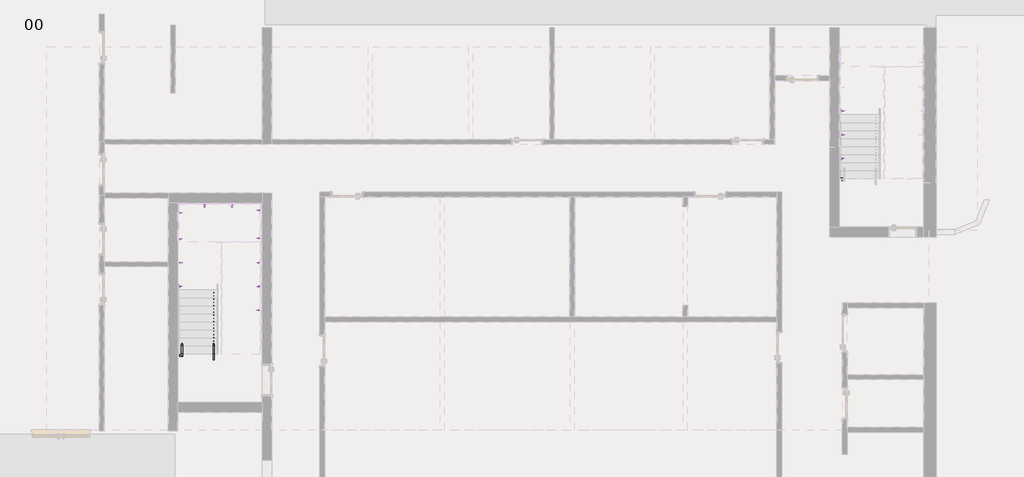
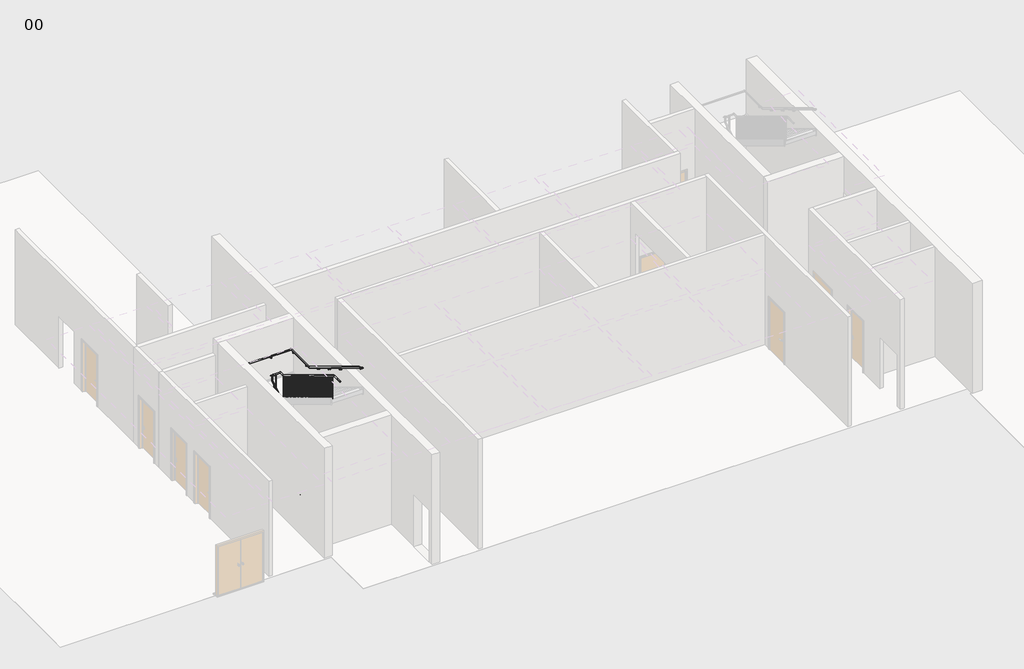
# One storey, part 9 of 11: 15 proxies, 2 railings.
"""IFC4 building model written with IfcOpenShell, lengths in millimetres."""

from ifc_helpers import new_model, si_unit, frame, origin, place, context, project, spatial, polyline, circle_curve, ellipse_curve, outline, extrude, transform, mapped, element, save
from ifc_brep_helpers import plane_surface, cylinder_surface, advanced_brep
from components import support_circular_support_bend_943144f1

model = new_model("IFC4")

# Units and contexts
model_context = context("Model", 3, world=origin())
ifc_project = project(units=[si_unit("LENGTHUNIT", "METRE", prefix="MILLI")], contexts=[model_context])

# Site, building, storey
site = spatial("IfcSite", under=ifc_project)
building = spatial("IfcBuilding", under=site)
storey = spatial("IfcBuildingStorey", under=building, Name="00", Elevation=0.0)

# Proxies
placement = place(None, origin())
support_circular_support_bend_shape = support_circular_support_bend_943144f1(model_context)
element("IfcBuildingElementProxy", 1, Name="Support_ Circular : Support_Bend", ObjectType="Support_ Circular : Support_Bend", at=placement, inside=storey, context=model_context, shape_type="MappedRepresentation", body=[
    mapped(support_circular_support_bend_shape, transform((422506.7206883, -389662.2924977, 2277.0260845), x_axis=(0.0, 1.0, 0.0), y_axis=(-1.0, 0.0, 0.0), z_axis=(0.0, 0.0, 1.0))),
])
element("IfcBuildingElementProxy", 2, Name="Support_ Circular : Support_Bend", ObjectType="Support_ Circular : Support_Bend", at=placement, inside=storey, context=model_context, shape_type="MappedRepresentation", body=[
    mapped(support_circular_support_bend_shape, transform((422506.7206883, -388918.3727809, 2723.3779147), x_axis=(0.0, 1.0, 0.0), y_axis=(-1.0, 0.0, 0.0), z_axis=(0.0, 0.0, 1.0))),
])
element("IfcBuildingElementProxy", 3, Name="Support_ Circular : Support_Bend", ObjectType="Support_ Circular : Support_Bend", at=placement, inside=storey, context=model_context, shape_type="MappedRepresentation", body=[
    mapped(support_circular_support_bend_shape, transform((422506.7206883, -388174.453064, 3169.7297448), x_axis=(0.0, 1.0, 0.0), y_axis=(-1.0, 0.0, 0.0), z_axis=(0.0, 0.0, 1.0))),
])
element("IfcBuildingElementProxy", 4, Name="Support_ Circular : Support_Bend", ObjectType="Support_ Circular : Support_Bend", at=placement, inside=storey, context=model_context, shape_type="MappedRepresentation", body=[
    mapped(support_circular_support_bend_shape, transform((422506.7206883, -387345.753659, 3310.0), x_axis=(0.0, 1.0, 0.0), y_axis=(-1.0, 0.0, 0.0), z_axis=(0.0, 0.0, 1.0))),
])
element("IfcBuildingElementProxy", 5, Name="Support_ Circular : Support_Bend", ObjectType="Support_ Circular : Support_Bend", at=placement, inside=storey, context=model_context, shape_type="MappedRepresentation", body=[
    mapped(support_circular_support_bend_shape, transform((423207.9216845, -387179.4026386, 3310.0), x_axis=(1.0, 0.0, 0.0), y_axis=(0.0, 1.0, 0.0), z_axis=(0.0, 0.0, 1.0))),
])
element("IfcBuildingElementProxy", 6, Name="Support_ Circular : Support_Bend", ObjectType="Support_ Circular : Support_Bend", at=placement, inside=storey, context=model_context, shape_type="MappedRepresentation", body=[
    mapped(support_circular_support_bend_shape, transform((424075.473701, -387179.4026386, 3310.0), x_axis=(1.0, 0.0, 0.0), y_axis=(0.0, 1.0, 0.0), z_axis=(0.0, 0.0, 1.0))),
])
element("IfcBuildingElementProxy", 7, Name="Support_ Circular : Support_Bend", ObjectType="Support_ Circular : Support_Bend", at=placement, inside=storey, context=model_context, shape_type="MappedRepresentation", body=[
    mapped(support_circular_support_bend_shape, transform((424845.9206883, -387276.5076677, 3310.0), x_axis=(0.0, -1.0, 0.0), y_axis=(1.0, 0.0, 0.0), z_axis=(0.0, 0.0, 1.0))),
])
element("IfcBuildingElementProxy", 8, Name="Support_ Circular : Support_Bend", ObjectType="Support_ Circular : Support_Bend", at=placement, inside=storey, context=model_context, shape_type="MappedRepresentation", body=[
    mapped(support_circular_support_bend_shape, transform((424845.9206883, -388144.0596842, 3310.0), x_axis=(0.0, -1.0, 0.0), y_axis=(1.0, 0.0, 0.0), z_axis=(0.0, 0.0, 1.0))),
])
element("IfcBuildingElementProxy", 9, Name="Support_ Circular : Support_Bend", ObjectType="Support_ Circular : Support_Bend", at=placement, inside=storey, context=model_context, shape_type="MappedRepresentation", body=[
    mapped(support_circular_support_bend_shape, transform((424845.9206883, -388918.3727809, 3646.6220853), x_axis=(0.0, -1.0, 0.0), y_axis=(1.0, 0.0, 0.0), z_axis=(0.0, 0.0, 1.0))),
])
element("IfcBuildingElementProxy", 10, Name="Support_ Circular : Support_Bend", ObjectType="Support_ Circular : Support_Bend", at=placement, inside=storey, context=model_context, shape_type="MappedRepresentation", body=[
    mapped(support_circular_support_bend_shape, transform((424845.9206883, -389662.2924977, 4092.9739155), x_axis=(0.0, -1.0, 0.0), y_axis=(1.0, 0.0, 0.0), z_axis=(0.0, 0.0, 1.0))),
])
element("IfcBuildingElementProxy", 11, Name="Support_ Circular : Support_Bend", ObjectType="Support_ Circular : Support_Bend", at=placement, inside=storey, context=model_context, shape_type="MappedRepresentation", body=[
    mapped(support_circular_support_bend_shape, transform((424845.9206883, -390406.2122145, 4539.3257456), x_axis=(0.0, -1.0, 0.0), y_axis=(1.0, 0.0, 0.0), z_axis=(0.0, 0.0, 1.0))),
])
element("IfcBuildingElementProxy", 12, Name="Support_ Circular : Support_Bend", ObjectType="Support_ Circular : Support_Bend", at=placement, inside=storey, context=model_context, shape_type="MappedRepresentation", body=[
    mapped(support_circular_support_bend_shape, transform((443172.7206883, -386335.0026386, 1050.0), x_axis=(1.0, 0.0, 0.0), y_axis=(0.0, 1.0, 0.0), z_axis=(0.0, 0.0, 1.0))),
])
element("IfcBuildingElementProxy", 13, Name="Support_ Circular : Support_Bend", ObjectType="Support_ Circular : Support_Bend", at=placement, inside=storey, context=model_context, shape_type="MappedRepresentation", body=[
    mapped(support_circular_support_bend_shape, transform((443252.7206883, -385650.2172722, 1384.8712198), x_axis=(0.0, 1.0, 0.0), y_axis=(-1.0, 0.0, 0.0), z_axis=(0.0, 0.0, 1.0))),
])
element("IfcBuildingElementProxy", 14, Name="Support_ Circular : Support_Bend", ObjectType="Support_ Circular : Support_Bend", at=placement, inside=storey, context=model_context, shape_type="MappedRepresentation", body=[
    mapped(support_circular_support_bend_shape, transform((443252.7206883, -384905.3828963, 1831.7718454), x_axis=(0.0, 1.0, 0.0), y_axis=(-1.0, 0.0, 0.0), z_axis=(0.0, 0.0, 1.0))),
])
element("IfcBuildingElementProxy", 15, Name="Support_ Circular : Support_Bend", ObjectType="Support_ Circular : Support_Bend", at=placement, inside=storey, context=model_context, shape_type="MappedRepresentation", body=[
    mapped(support_circular_support_bend_shape, transform((443252.7206883, -384160.5485203, 2278.672471), x_axis=(0.0, 1.0, 0.0), y_axis=(-1.0, 0.0, 0.0), z_axis=(0.0, 0.0, 1.0))),
])

# Railings
element("IfcRailing", 16, ObjectType="Concept_900-1100mm_RailStop_Baluster", at=placement, inside=storey, context=model_context, shape_type="SolidModel", body=[
    advanced_brep(
    [(423515.9206883, -391969.0026386, 1030.0), (423475.9206883, -391969.0026386, 1030.0), (423515.9206883, -391768.4629593, 1030.0), (423475.9206883, -391768.4629593, 1030.0), (423515.9206883, -388228.6026386, 3153.9161924), (423475.9206883, -388228.6026386, 3153.9161924), (423515.9206883, -388228.6026386, 3330.0), (423475.9206883, -388228.6026386, 3330.0), (423515.9206883, -388188.6026386, 3330.0), (423475.9206883, -388148.6026386, 3330.0), (423575.9206883, -388188.6026386, 3330.0), (423575.9206883, -388148.6026386, 3330.0), (423836.7206883, -388188.6026386, 3330.0), (423876.7206883, -388148.6026386, 3330.0), (423836.7206883, -388362.8756512, 3330.0), (423876.7206883, -388362.8756512, 3330.0), (423836.7206883, -391779.5423179, 5380.0), (423876.7206883, -391779.5423179, 5380.0), (423836.7206883, -392169.0026386, 5380.0), (423876.7206883, -392169.0026386, 5380.0)],
    [
        (0, 1, circle_curve(frame((423495.9206883, -391969.0026386, 1030.0), z_axis=(0.0, -1.0, 0.0), x_axis=(-1.0, 0.0, 0.0)), 20.0)),
        (1, 0, circle_curve(frame((423495.9206883, -391969.0026386, 1030.0), z_axis=(0.0, -1.0, 0.0), x_axis=(-1.0, 0.0, 0.0)), 20.0)),
        (0, 2),
        (2, 3, ellipse_curve(frame((423495.9206883, -391768.4629593, 1030.0), z_axis=(0.0, -0.9637149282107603, -0.26693358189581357), x_axis=(0.0, -0.26693358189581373, 0.9637149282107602)), 20.753025, 20.0)),
        (3, 1),
        (3, 2, ellipse_curve(frame((423495.9206883, -391768.4629593, 1030.0), z_axis=(0.0, -0.9637149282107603, -0.26693358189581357), x_axis=(0.0, -0.26693358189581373, 0.9637149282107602)), 20.753025, 20.0)),
        (2, 4),
        (4, 5, ellipse_curve(frame((423495.9206883, -388228.6026386, 3153.9161924), z_axis=(0.0, -0.49269881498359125, -0.8701999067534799), x_axis=(0.0, -0.8701999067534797, 0.4926988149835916)), 22.9832247, 20.0)),
        (5, 3),
        (5, 4, ellipse_curve(frame((423495.9206883, -388228.6026386, 3153.9161924), z_axis=(0.0, -0.49269881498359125, -0.8701999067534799), x_axis=(0.0, -0.8701999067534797, 0.4926988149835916)), 22.9832247, 20.0)),
        (4, 6),
        (6, 7, ellipse_curve(frame((423495.9206883, -388228.6026386, 3330.0), z_axis=(0.0, -0.7071067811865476, -0.7071067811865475), x_axis=(0.0, 0.7071067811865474, -0.7071067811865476)), 28.2842712, 20.0)),
        (7, 5),
        (7, 6, ellipse_curve(frame((423495.9206883, -388228.6026386, 3330.0), z_axis=(0.0, -0.7071067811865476, -0.7071067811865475), x_axis=(0.0, 0.7071067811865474, -0.7071067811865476)), 28.2842712, 20.0)),
        (6, 8),
        (8, 9, ellipse_curve(frame((423495.9206883, -388168.6026386, 3330.0), z_axis=(-0.7071067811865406, -0.7071067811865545, 0.0), x_axis=(0.7071067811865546, -0.7071067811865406, 0.0)), 28.2842712, 20.0)),
        (9, 7),
        (9, 8, ellipse_curve(frame((423495.9206883, -388168.6026386, 3330.0), z_axis=(-0.7071067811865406, -0.7071067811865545, 0.0), x_axis=(0.7071067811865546, -0.7071067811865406, 0.0)), 28.2842712, 20.0)),
        (8, 10),
        (10, 11, circle_curve(frame((423575.9206883, -388168.6026386, 3330.0), z_axis=(-1.0, 0.0, 0.0), x_axis=(0.0, 1.0, 0.0)), 20.0)),
        (11, 9),
        (11, 10, circle_curve(frame((423575.9206883, -388168.6026386, 3330.0), z_axis=(-1.0, 0.0, 0.0), x_axis=(0.0, 1.0, 0.0)), 20.0)),
        (10, 12),
        (12, 13, ellipse_curve(frame((423856.7206883, -388168.6026386, 3330.0), z_axis=(-0.7071067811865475, 0.7071067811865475, 0.0), x_axis=(-0.7071067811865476, -0.7071067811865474, 0.0)), 28.2842712, 20.0)),
        (13, 11),
        (13, 12, ellipse_curve(frame((423856.7206883, -388168.6026386, 3330.0), z_axis=(-0.7071067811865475, 0.7071067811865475, 0.0), x_axis=(-0.7071067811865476, -0.7071067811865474, 0.0)), 28.2842712, 20.0)),
        (12, 14),
        (14, 15, ellipse_curve(frame((423856.7206883, -388362.8756512, 3330.0), z_axis=(0.0, 0.9637149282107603, -0.2669335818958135), x_axis=(0.0, 0.26693358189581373, 0.9637149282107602)), 20.753025, 20.0)),
        (15, 13),
        (15, 14, ellipse_curve(frame((423856.7206883, -388362.8756512, 3330.0), z_axis=(0.0, 0.9637149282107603, -0.2669335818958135), x_axis=(0.0, 0.26693358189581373, 0.9637149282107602)), 20.753025, 20.0)),
        (14, 16),
        (16, 17, ellipse_curve(frame((423856.7206883, -391779.5423179, 5380.0), z_axis=(0.0, 0.9637149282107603, -0.2669335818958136), x_axis=(0.0, -0.26693358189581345, -0.9637149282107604)), 20.753025, 20.0)),
        (17, 15),
        (17, 16, ellipse_curve(frame((423856.7206883, -391779.5423179, 5380.0), z_axis=(0.0, 0.9637149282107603, -0.2669335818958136), x_axis=(0.0, -0.26693358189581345, -0.9637149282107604)), 20.753025, 20.0)),
        (18, 19, circle_curve(frame((423856.7206883, -392169.0026386, 5380.0), z_axis=(0.0, -1.0, 0.0), x_axis=(1.0, 0.0, 0.0)), 20.0)),
        (19, 18, circle_curve(frame((423856.7206883, -392169.0026386, 5380.0), z_axis=(0.0, -1.0, 0.0), x_axis=(1.0, 0.0, 0.0)), 20.0)),
        (16, 18),
        (19, 17),
    ],
    [
        plane_surface(frame((423495.9206883, -391969.0026386, 1050.0), z_axis=(0.0, -1.0, 0.0), x_axis=(0.0, 0.0, 1.0))),
        cylinder_surface(frame((423495.9206883, -391969.0026386, 1030.0), z_axis=(0.0, -1.0, 0.0), x_axis=(-1.0, 0.0, 0.0)), 20.0),
        cylinder_surface(frame((423495.9206883, -391763.7127235, 1032.8501415), z_axis=(0.0, -0.857492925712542, -0.5144957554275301), x_axis=(-1.0, 0.0, 0.0)), 20.0),
        cylinder_surface(frame((423495.9206883, -388228.6026386, 3165.24), z_axis=(0.0, 0.0, -1.0), x_axis=(-1.0, 0.0, 0.0)), 20.0),
        cylinder_surface(frame((423495.9206883, -388248.6026386, 3330.0), z_axis=(0.0, -1.0, 0.0), x_axis=(-1.0, 0.0, 0.0)), 20.0),
        cylinder_surface(frame((423495.9206883, -388168.6026386, 3330.0), z_axis=(-1.0, 0.0, 0.0), x_axis=(0.0, 1.0, 0.0)), 20.0),
        cylinder_surface(frame((423575.9206883, -388168.6026386, 3330.0), z_axis=(-1.0, 0.0, 0.0), x_axis=(0.0, 1.0, 0.0)), 20.0),
        cylinder_surface(frame((423856.7206883, -388168.6026386, 3330.0), z_axis=(0.0, 1.0, 0.0), x_axis=(1.0, 0.0, 0.0)), 20.0),
        cylinder_surface(frame((423856.7206883, -388367.6258871, 3332.8501415), z_axis=(0.0, 0.857492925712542, -0.5144957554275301), x_axis=(1.0, 0.0, 0.0)), 20.0),
        plane_surface(frame((423856.7206883, -392169.0026386, 5400.0), z_axis=(0.0, -1.0, 0.0), x_axis=(0.0, 0.0, -1.0))),
        cylinder_surface(frame((423856.7206883, -391774.0026386, 5380.0), z_axis=(0.0, 1.0, 0.0), x_axis=(1.0, 0.0, 0.0)), 20.0),
    ],
    [
        (0, [[1, 2]]),
        (1, [[-1, 3, 4, 5]]),
        (1, [[-2, -5, 6, -3]]),
        (2, [[-4, 7, 8, 9]]),
        (2, [[-6, -9, 10, -7]]),
        (3, [[-8, 11, 12, 13]]),
        (3, [[-10, -13, 14, -11]]),
        (4, [[-12, 15, 16, 17]]),
        (4, [[-14, -17, 18, -15]]),
        (5, [[-16, 19, 20, 21]]),
        (5, [[-18, -21, 22, -19]]),
        (6, [[-20, 23, 24, 25]]),
        (6, [[-22, -25, 26, -23]]),
        (7, [[-24, 27, 28, 29]]),
        (7, [[-26, -29, 30, -27]]),
        (8, [[-28, 31, 32, 33]]),
        (8, [[-30, -33, 34, -31]]),
        (9, [[35, 36]]),
        (10, [[-32, 37, -36, 38]]),
        (10, [[-34, -38, -35, -37]]),
    ],
),
    extrude(outline(polyline([(-391668.2769243, 5289.9169563), (-391668.2769243, 4350.0), (-391678.2769243, 4350.0), (-391678.2769243, 5295.9169563), (-391668.2769243, 5289.9169563)])), frame((423851.7206883, 0.0, 0.0), z_axis=(1.0, 0.0, 0.0), x_axis=(0.0, 1.0, 0.0)), (0.0, 0.0, 1.0), 10.0),
    extrude(outline(polyline([(-391567.55121, 5229.4815277), (-391567.55121, 4350.0), (-391577.55121, 4350.0), (-391577.55121, 5235.4815277), (-391567.55121, 5229.4815277)])), frame((423851.7206883, 0.0, 0.0), z_axis=(1.0, 0.0, 0.0), x_axis=(0.0, 1.0, 0.0)), (0.0, 0.0, 1.0), 10.0),
    extrude(outline(polyline([(-391466.8254958, 5169.0460991), (-391466.8254958, 4200.0), (-391476.8254958, 4200.0), (-391476.8254958, 5175.0460991), (-391466.8254958, 5169.0460991)])), frame((423851.7206883, 0.0, 0.0), z_axis=(1.0, 0.0, 0.0), x_axis=(0.0, 1.0, 0.0)), (0.0, 0.0, 1.0), 10.0),
    extrude(outline(polyline([(-391366.0997815, 5108.6106706), (-391366.0997815, 4200.0), (-391376.0997815, 4200.0), (-391376.0997815, 5114.6106706), (-391366.0997815, 5108.6106706)])), frame((423851.7206883, 0.0, 0.0), z_axis=(1.0, 0.0, 0.0), x_axis=(0.0, 1.0, 0.0)), (0.0, 0.0, 1.0), 10.0),
    extrude(outline(polyline([(-391265.3740672, 5048.175242), (-391265.3740672, 4050.0), (-391275.3740672, 4050.0), (-391275.3740672, 5054.175242), (-391265.3740672, 5048.175242)])), frame((423851.7206883, 0.0, 0.0), z_axis=(1.0, 0.0, 0.0), x_axis=(0.0, 1.0, 0.0)), (0.0, 0.0, 1.0), 10.0),
    extrude(outline(polyline([(-391164.6483529, 4987.7398134), (-391164.6483529, 4050.0), (-391174.6483529, 4050.0), (-391174.6483529, 4993.7398134), (-391164.6483529, 4987.7398134)])), frame((423851.7206883, 0.0, 0.0), z_axis=(1.0, 0.0, 0.0), x_axis=(0.0, 1.0, 0.0)), (0.0, 0.0, 1.0), 10.0),
    extrude(outline(polyline([(-391063.9226386, 4927.3043848), (-391063.9226386, 4050.0), (-391073.9226386, 4050.0), (-391073.9226386, 4933.3043848), (-391063.9226386, 4927.3043848)])), frame((423851.7206883, 0.0, 0.0), z_axis=(1.0, 0.0, 0.0), x_axis=(0.0, 1.0, 0.0)), (0.0, 0.0, 1.0), 10.0),
    extrude(outline(polyline([(-390963.1969243, 4866.8689563), (-390963.1969243, 3900.0), (-390973.1969243, 3900.0), (-390973.1969243, 4872.8689563), (-390963.1969243, 4866.8689563)])), frame((423851.7206883, 0.0, 0.0), z_axis=(1.0, 0.0, 0.0), x_axis=(0.0, 1.0, 0.0)), (0.0, 0.0, 1.0), 10.0),
    extrude(outline(polyline([(-390862.47121, 4806.4335277), (-390862.47121, 3900.0), (-390872.47121, 3900.0), (-390872.47121, 4812.4335277), (-390862.47121, 4806.4335277)])), frame((423851.7206883, 0.0, 0.0), z_axis=(1.0, 0.0, 0.0), x_axis=(0.0, 1.0, 0.0)), (0.0, 0.0, 1.0), 10.0),
    extrude(outline(polyline([(-390761.7454958, 4745.9980991), (-390761.7454958, 3750.0), (-390771.7454958, 3750.0), (-390771.7454958, 4751.9980991), (-390761.7454958, 4745.9980991)])), frame((423851.7206883, 0.0, 0.0), z_axis=(1.0, 0.0, 0.0), x_axis=(0.0, 1.0, 0.0)), (0.0, 0.0, 1.0), 10.0),
    extrude(outline(polyline([(-390661.0197815, 4685.5626706), (-390661.0197815, 3750.0), (-390671.0197815, 3750.0), (-390671.0197815, 4691.5626706), (-390661.0197815, 4685.5626706)])), frame((423851.7206883, 0.0, 0.0), z_axis=(1.0, 0.0, 0.0), x_axis=(0.0, 1.0, 0.0)), (0.0, 0.0, 1.0), 10.0),
    extrude(outline(polyline([(-390560.2940672, 4625.127242), (-390560.2940672, 3750.0), (-390570.2940672, 3750.0), (-390570.2940672, 4631.127242), (-390560.2940672, 4625.127242)])), frame((423851.7206883, 0.0, 0.0), z_axis=(1.0, 0.0, 0.0), x_axis=(0.0, 1.0, 0.0)), (0.0, 0.0, 1.0), 10.0),
    extrude(outline(polyline([(-390459.5683529, 4564.6918134), (-390459.5683529, 3600.0), (-390469.5683529, 3600.0), (-390469.5683529, 4570.6918134), (-390459.5683529, 4564.6918134)])), frame((423851.7206883, 0.0, 0.0), z_axis=(1.0, 0.0, 0.0), x_axis=(0.0, 1.0, 0.0)), (0.0, 0.0, 1.0), 10.0),
    extrude(outline(polyline([(-390358.8426386, 4504.2563848), (-390358.8426386, 3600.0), (-390368.8426386, 3600.0), (-390368.8426386, 4510.2563848), (-390358.8426386, 4504.2563848)])), frame((423851.7206883, 0.0, 0.0), z_axis=(1.0, 0.0, 0.0), x_axis=(0.0, 1.0, 0.0)), (0.0, 0.0, 1.0), 10.0),
    extrude(outline(polyline([(-390258.1169243, 4443.8209563), (-390258.1169243, 3450.0), (-390268.1169243, 3450.0), (-390268.1169243, 4449.8209563), (-390258.1169243, 4443.8209563)])), frame((423851.7206883, 0.0, 0.0), z_axis=(1.0, 0.0, 0.0), x_axis=(0.0, 1.0, 0.0)), (0.0, 0.0, 1.0), 10.0),
    extrude(outline(polyline([(-390157.39121, 4383.3855277), (-390157.39121, 3450.0), (-390167.39121, 3450.0), (-390167.39121, 4389.3855277), (-390157.39121, 4383.3855277)])), frame((423851.7206883, 0.0, 0.0), z_axis=(1.0, 0.0, 0.0), x_axis=(0.0, 1.0, 0.0)), (0.0, 0.0, 1.0), 10.0),
    extrude(outline(polyline([(-390056.6654958, 4322.9500991), (-390056.6654958, 3450.0), (-390066.6654958, 3450.0), (-390066.6654958, 4328.9500991), (-390056.6654958, 4322.9500991)])), frame((423851.7206883, 0.0, 0.0), z_axis=(1.0, 0.0, 0.0), x_axis=(0.0, 1.0, 0.0)), (0.0, 0.0, 1.0), 10.0),
    extrude(outline(polyline([(-389955.9397815, 4262.5146706), (-389955.9397815, 3300.0), (-389965.9397815, 3300.0), (-389965.9397815, 4268.5146706), (-389955.9397815, 4262.5146706)])), frame((423851.7206883, 0.0, 0.0), z_axis=(1.0, 0.0, 0.0), x_axis=(0.0, 1.0, 0.0)), (0.0, 0.0, 1.0), 10.0),
    extrude(outline(polyline([(-389855.2140672, 4202.079242), (-389855.2140672, 3300.0), (-389865.2140672, 3300.0), (-389865.2140672, 4208.079242), (-389855.2140672, 4202.079242)])), frame((423851.7206883, 0.0, 0.0), z_axis=(1.0, 0.0, 0.0), x_axis=(0.0, 1.0, 0.0)), (0.0, 0.0, 1.0), 10.0),
    extrude(outline(polyline([(-389754.4883529, 4141.6438134), (-389754.4883529, 3150.0), (-389764.4883529, 3150.0), (-389764.4883529, 4147.6438134), (-389754.4883529, 4141.6438134)])), frame((423851.7206883, 0.0, 0.0), z_axis=(1.0, 0.0, 0.0), x_axis=(0.0, 1.0, 0.0)), (0.0, 0.0, 1.0), 10.0),
    extrude(outline(polyline([(-389653.7626386, 4081.2083848), (-389653.7626386, 3150.0), (-389663.7626386, 3150.0), (-389663.7626386, 4087.2083848), (-389653.7626386, 4081.2083848)])), frame((423851.7206883, 0.0, 0.0), z_axis=(1.0, 0.0, 0.0), x_axis=(0.0, 1.0, 0.0)), (0.0, 0.0, 1.0), 10.0),
    extrude(outline(polyline([(-389553.0369243, 4020.7729563), (-389553.0369243, 3150.0), (-389563.0369243, 3150.0), (-389563.0369243, 4026.7729563), (-389553.0369243, 4020.7729563)])), frame((423851.7206883, 0.0, 0.0), z_axis=(1.0, 0.0, 0.0), x_axis=(0.0, 1.0, 0.0)), (0.0, 0.0, 1.0), 10.0),
    extrude(outline(polyline([(-389452.31121, 3960.3375277), (-389452.31121, 3000.0), (-389462.31121, 3000.0), (-389462.31121, 3966.3375277), (-389452.31121, 3960.3375277)])), frame((423851.7206883, 0.0, 0.0), z_axis=(1.0, 0.0, 0.0), x_axis=(0.0, 1.0, 0.0)), (0.0, 0.0, 1.0), 10.0),
    extrude(outline(polyline([(-389351.5854958, 3899.9020991), (-389351.5854958, 3000.0), (-389361.5854958, 3000.0), (-389361.5854958, 3905.9020991), (-389351.5854958, 3899.9020991)])), frame((423851.7206883, 0.0, 0.0), z_axis=(1.0, 0.0, 0.0), x_axis=(0.0, 1.0, 0.0)), (0.0, 0.0, 1.0), 10.0),
    extrude(outline(polyline([(-389250.8597815, 3839.4666706), (-389250.8597815, 2850.0), (-389260.8597815, 2850.0), (-389260.8597815, 3845.4666706), (-389250.8597815, 3839.4666706)])), frame((423851.7206883, 0.0, 0.0), z_axis=(1.0, 0.0, 0.0), x_axis=(0.0, 1.0, 0.0)), (0.0, 0.0, 1.0), 10.0),
    extrude(outline(polyline([(-389150.1340672, 3779.031242), (-389150.1340672, 2850.0), (-389160.1340672, 2850.0), (-389160.1340672, 3785.031242), (-389150.1340672, 3779.031242)])), frame((423851.7206883, 0.0, 0.0), z_axis=(1.0, 0.0, 0.0), x_axis=(0.0, 1.0, 0.0)), (0.0, 0.0, 1.0), 10.0),
    extrude(outline(polyline([(-389049.4083529, 3718.5958134), (-389049.4083529, 2850.0), (-389059.4083529, 2850.0), (-389059.4083529, 3724.5958134), (-389049.4083529, 3718.5958134)])), frame((423851.7206883, 0.0, 0.0), z_axis=(1.0, 0.0, 0.0), x_axis=(0.0, 1.0, 0.0)), (0.0, 0.0, 1.0), 10.0),
    extrude(outline(polyline([(-388948.6826386, 3658.1603848), (-388948.6826386, 2700.0), (-388958.6826386, 2700.0), (-388958.6826386, 3664.1603848), (-388948.6826386, 3658.1603848)])), frame((423851.7206883, 0.0, 0.0), z_axis=(1.0, 0.0, 0.0), x_axis=(0.0, 1.0, 0.0)), (0.0, 0.0, 1.0), 10.0),
    extrude(outline(polyline([(-388847.9569243, 3597.7249563), (-388847.9569243, 2700.0), (-388857.9569243, 2700.0), (-388857.9569243, 3603.7249563), (-388847.9569243, 3597.7249563)])), frame((423851.7206883, 0.0, 0.0), z_axis=(1.0, 0.0, 0.0), x_axis=(0.0, 1.0, 0.0)), (0.0, 0.0, 1.0), 10.0),
    extrude(outline(polyline([(-388747.23121, 3537.2895277), (-388747.23121, 2550.0), (-388757.23121, 2550.0), (-388757.23121, 3543.2895277), (-388747.23121, 3537.2895277)])), frame((423851.7206883, 0.0, 0.0), z_axis=(1.0, 0.0, 0.0), x_axis=(0.0, 1.0, 0.0)), (0.0, 0.0, 1.0), 10.0),
    extrude(outline(polyline([(-388646.5054958, 3476.8540991), (-388646.5054958, 2550.0), (-388656.5054958, 2550.0), (-388656.5054958, 3482.8540991), (-388646.5054958, 3476.8540991)])), frame((423851.7206883, 0.0, 0.0), z_axis=(1.0, 0.0, 0.0), x_axis=(0.0, 1.0, 0.0)), (0.0, 0.0, 1.0), 10.0),
    extrude(outline(polyline([(-388545.7797815, 3416.4186706), (-388545.7797815, 2550.0), (-388555.7797815, 2550.0), (-388555.7797815, 3422.4186706), (-388545.7797815, 3416.4186706)])), frame((423851.7206883, 0.0, 0.0), z_axis=(1.0, 0.0, 0.0), x_axis=(0.0, 1.0, 0.0)), (0.0, 0.0, 1.0), 10.0),
    extrude(outline(polyline([(-388445.0540672, 3355.983242), (-388445.0540672, 2400.0), (-388455.0540672, 2400.0), (-388455.0540672, 3361.983242), (-388445.0540672, 3355.983242)])), frame((423851.7206883, 0.0, 0.0), z_axis=(1.0, 0.0, 0.0), x_axis=(0.0, 1.0, 0.0)), (0.0, 0.0, 1.0), 10.0),
    extrude(outline(polyline([(423851.7206883, -388344.3283529), (423861.7206883, -388344.3283529), (423861.7206883, -388354.3283529), (423851.7206883, -388354.3283529), (423851.7206883, -388344.3283529)])), frame((0.0, 0.0, 2400.0), z_axis=(0.0, 0.0, 1.0), x_axis=(1.0, 0.0, 0.0)), (0.0, 0.0, 1.0), 910.0),
    extrude(outline(polyline([(423671.3206883, -388173.6026386), (423671.3206883, -388163.6026386), (423681.3206883, -388163.6026386), (423681.3206883, -388173.6026386), (423671.3206883, -388173.6026386)])), frame((0.0, 0.0, 2250.0), z_axis=(0.0, 0.0, 1.0), x_axis=(1.0, 0.0, 0.0)), (0.0, 0.0, 1.0), 1060.0),
    extrude(outline(polyline([(-388354.3283529, 2100.0), (-388354.3283529, 3055.1569563), (-388344.3283529, 3061.1569563), (-388344.3283529, 2100.0), (-388354.3283529, 2100.0)])), frame((423490.9206883, 0.0, 0.0), z_axis=(1.0, 0.0, 0.0), x_axis=(0.0, 1.0, 0.0)), (0.0, 0.0, 1.0), 10.0),
    extrude(outline(polyline([(-388455.0540672, 2100.0), (-388455.0540672, 2994.7215277), (-388445.0540672, 3000.7215277), (-388445.0540672, 2100.0), (-388455.0540672, 2100.0)])), frame((423490.9206883, 0.0, 0.0), z_axis=(1.0, 0.0, 0.0), x_axis=(0.0, 1.0, 0.0)), (0.0, 0.0, 1.0), 10.0),
    extrude(outline(polyline([(-388555.7797815, 1950.0), (-388555.7797815, 2934.2860991), (-388545.7797815, 2940.2860991), (-388545.7797815, 1950.0), (-388555.7797815, 1950.0)])), frame((423490.9206883, 0.0, 0.0), z_axis=(1.0, 0.0, 0.0), x_axis=(0.0, 1.0, 0.0)), (0.0, 0.0, 1.0), 10.0),
    extrude(outline(polyline([(-388656.5054958, 1950.0), (-388656.5054958, 2873.8506706), (-388646.5054958, 2879.8506706), (-388646.5054958, 1950.0), (-388656.5054958, 1950.0)])), frame((423490.9206883, 0.0, 0.0), z_axis=(1.0, 0.0, 0.0), x_axis=(0.0, 1.0, 0.0)), (0.0, 0.0, 1.0), 10.0),
    extrude(outline(polyline([(-388757.23121, 1950.0), (-388757.23121, 2813.415242), (-388747.23121, 2819.415242), (-388747.23121, 1950.0), (-388757.23121, 1950.0)])), frame((423490.9206883, 0.0, 0.0), z_axis=(1.0, 0.0, 0.0), x_axis=(0.0, 1.0, 0.0)), (0.0, 0.0, 1.0), 10.0),
    extrude(outline(polyline([(-388857.9569243, 1800.0), (-388857.9569243, 2752.9798134), (-388847.9569243, 2758.9798134), (-388847.9569243, 1800.0), (-388857.9569243, 1800.0)])), frame((423490.9206883, 0.0, 0.0), z_axis=(1.0, 0.0, 0.0), x_axis=(0.0, 1.0, 0.0)), (0.0, 0.0, 1.0), 10.0),
    extrude(outline(polyline([(-388958.6826386, 1800.0), (-388958.6826386, 2692.5443848), (-388948.6826386, 2698.5443848), (-388948.6826386, 1800.0), (-388958.6826386, 1800.0)])), frame((423490.9206883, 0.0, 0.0), z_axis=(1.0, 0.0, 0.0), x_axis=(0.0, 1.0, 0.0)), (0.0, 0.0, 1.0), 10.0),
    extrude(outline(polyline([(-389059.4083529, 1650.0), (-389059.4083529, 2632.1089563), (-389049.4083529, 2638.1089563), (-389049.4083529, 1650.0), (-389059.4083529, 1650.0)])), frame((423490.9206883, 0.0, 0.0), z_axis=(1.0, 0.0, 0.0), x_axis=(0.0, 1.0, 0.0)), (0.0, 0.0, 1.0), 10.0),
    extrude(outline(polyline([(-389160.1340672, 1650.0), (-389160.1340672, 2571.6735277), (-389150.1340672, 2577.6735277), (-389150.1340672, 1650.0), (-389160.1340672, 1650.0)])), frame((423490.9206883, 0.0, 0.0), z_axis=(1.0, 0.0, 0.0), x_axis=(0.0, 1.0, 0.0)), (0.0, 0.0, 1.0), 10.0),
    extrude(outline(polyline([(-389260.8597815, 1650.0), (-389260.8597815, 2511.2380991), (-389250.8597815, 2517.2380991), (-389250.8597815, 1650.0), (-389260.8597815, 1650.0)])), frame((423490.9206883, 0.0, 0.0), z_axis=(1.0, 0.0, 0.0), x_axis=(0.0, 1.0, 0.0)), (0.0, 0.0, 1.0), 10.0),
    extrude(outline(polyline([(-389361.5854958, 1500.0), (-389361.5854958, 2450.8026706), (-389351.5854958, 2456.8026706), (-389351.5854958, 1500.0), (-389361.5854958, 1500.0)])), frame((423490.9206883, 0.0, 0.0), z_axis=(1.0, 0.0, 0.0), x_axis=(0.0, 1.0, 0.0)), (0.0, 0.0, 1.0), 10.0),
    extrude(outline(polyline([(-389462.31121, 1500.0), (-389462.31121, 2390.367242), (-389452.31121, 2396.367242), (-389452.31121, 1500.0), (-389462.31121, 1500.0)])), frame((423490.9206883, 0.0, 0.0), z_axis=(1.0, 0.0, 0.0), x_axis=(0.0, 1.0, 0.0)), (0.0, 0.0, 1.0), 10.0),
    extrude(outline(polyline([(-389563.0369243, 1350.0), (-389563.0369243, 2329.9318134), (-389553.0369243, 2335.9318134), (-389553.0369243, 1350.0), (-389563.0369243, 1350.0)])), frame((423490.9206883, 0.0, 0.0), z_axis=(1.0, 0.0, 0.0), x_axis=(0.0, 1.0, 0.0)), (0.0, 0.0, 1.0), 10.0),
    extrude(outline(polyline([(-389663.7626386, 1350.0), (-389663.7626386, 2269.4963848), (-389653.7626386, 2275.4963848), (-389653.7626386, 1350.0), (-389663.7626386, 1350.0)])), frame((423490.9206883, 0.0, 0.0), z_axis=(1.0, 0.0, 0.0), x_axis=(0.0, 1.0, 0.0)), (0.0, 0.0, 1.0), 10.0),
    extrude(outline(polyline([(-389764.4883529, 1350.0), (-389764.4883529, 2209.0609563), (-389754.4883529, 2215.0609563), (-389754.4883529, 1350.0), (-389764.4883529, 1350.0)])), frame((423490.9206883, 0.0, 0.0), z_axis=(1.0, 0.0, 0.0), x_axis=(0.0, 1.0, 0.0)), (0.0, 0.0, 1.0), 10.0),
    extrude(outline(polyline([(-389865.2140672, 1200.0), (-389865.2140672, 2148.6255277), (-389855.2140672, 2154.6255277), (-389855.2140672, 1200.0), (-389865.2140672, 1200.0)])), frame((423490.9206883, 0.0, 0.0), z_axis=(1.0, 0.0, 0.0), x_axis=(0.0, 1.0, 0.0)), (0.0, 0.0, 1.0), 10.0),
    extrude(outline(polyline([(-389965.9397815, 1200.0), (-389965.9397815, 2088.1900991), (-389955.9397815, 2094.1900991), (-389955.9397815, 1200.0), (-389965.9397815, 1200.0)])), frame((423490.9206883, 0.0, 0.0), z_axis=(1.0, 0.0, 0.0), x_axis=(0.0, 1.0, 0.0)), (0.0, 0.0, 1.0), 10.0),
    extrude(outline(polyline([(-390066.6654958, 1050.0), (-390066.6654958, 2027.7546706), (-390056.6654958, 2033.7546706), (-390056.6654958, 1050.0), (-390066.6654958, 1050.0)])), frame((423490.9206883, 0.0, 0.0), z_axis=(1.0, 0.0, 0.0), x_axis=(0.0, 1.0, 0.0)), (0.0, 0.0, 1.0), 10.0),
    extrude(outline(polyline([(-390167.39121, 1050.0), (-390167.39121, 1967.319242), (-390157.39121, 1973.319242), (-390157.39121, 1050.0), (-390167.39121, 1050.0)])), frame((423490.9206883, 0.0, 0.0), z_axis=(1.0, 0.0, 0.0), x_axis=(0.0, 1.0, 0.0)), (0.0, 0.0, 1.0), 10.0),
    extrude(outline(polyline([(-390268.1169243, 1050.0), (-390268.1169243, 1906.8838134), (-390258.1169243, 1912.8838134), (-390258.1169243, 1050.0), (-390268.1169243, 1050.0)])), frame((423490.9206883, 0.0, 0.0), z_axis=(1.0, 0.0, 0.0), x_axis=(0.0, 1.0, 0.0)), (0.0, 0.0, 1.0), 10.0),
    extrude(outline(polyline([(-390368.8426386, 900.0), (-390368.8426386, 1846.4483848), (-390358.8426386, 1852.4483848), (-390358.8426386, 900.0), (-390368.8426386, 900.0)])), frame((423490.9206883, 0.0, 0.0), z_axis=(1.0, 0.0, 0.0), x_axis=(0.0, 1.0, 0.0)), (0.0, 0.0, 1.0), 10.0),
    extrude(outline(polyline([(-390469.5683529, 900.0), (-390469.5683529, 1786.0129563), (-390459.5683529, 1792.0129563), (-390459.5683529, 900.0), (-390469.5683529, 900.0)])), frame((423490.9206883, 0.0, 0.0), z_axis=(1.0, 0.0, 0.0), x_axis=(0.0, 1.0, 0.0)), (0.0, 0.0, 1.0), 10.0),
    extrude(outline(polyline([(-390570.2940672, 750.0), (-390570.2940672, 1725.5775277), (-390560.2940672, 1731.5775277), (-390560.2940672, 750.0), (-390570.2940672, 750.0)])), frame((423490.9206883, 0.0, 0.0), z_axis=(1.0, 0.0, 0.0), x_axis=(0.0, 1.0, 0.0)), (0.0, 0.0, 1.0), 10.0),
    extrude(outline(polyline([(-390671.0197815, 750.0), (-390671.0197815, 1665.1420991), (-390661.0197815, 1671.1420991), (-390661.0197815, 750.0), (-390671.0197815, 750.0)])), frame((423490.9206883, 0.0, 0.0), z_axis=(1.0, 0.0, 0.0), x_axis=(0.0, 1.0, 0.0)), (0.0, 0.0, 1.0), 10.0),
    extrude(outline(polyline([(-390771.7454958, 750.0), (-390771.7454958, 1604.7066706), (-390761.7454958, 1610.7066706), (-390761.7454958, 750.0), (-390771.7454958, 750.0)])), frame((423490.9206883, 0.0, 0.0), z_axis=(1.0, 0.0, 0.0), x_axis=(0.0, 1.0, 0.0)), (0.0, 0.0, 1.0), 10.0),
    extrude(outline(polyline([(-390872.47121, 600.0), (-390872.47121, 1544.271242), (-390862.47121, 1550.271242), (-390862.47121, 600.0), (-390872.47121, 600.0)])), frame((423490.9206883, 0.0, 0.0), z_axis=(1.0, 0.0, 0.0), x_axis=(0.0, 1.0, 0.0)), (0.0, 0.0, 1.0), 10.0),
    extrude(outline(polyline([(-390973.1969243, 600.0), (-390973.1969243, 1483.8358134), (-390963.1969243, 1489.8358134), (-390963.1969243, 600.0), (-390973.1969243, 600.0)])), frame((423490.9206883, 0.0, 0.0), z_axis=(1.0, 0.0, 0.0), x_axis=(0.0, 1.0, 0.0)), (0.0, 0.0, 1.0), 10.0),
    extrude(outline(polyline([(-391073.9226386, 450.0), (-391073.9226386, 1423.4003848), (-391063.9226386, 1429.4003848), (-391063.9226386, 450.0), (-391073.9226386, 450.0)])), frame((423490.9206883, 0.0, 0.0), z_axis=(1.0, 0.0, 0.0), x_axis=(0.0, 1.0, 0.0)), (0.0, 0.0, 1.0), 10.0),
    extrude(outline(polyline([(-391174.6483529, 450.0), (-391174.6483529, 1362.9649563), (-391164.6483529, 1368.9649563), (-391164.6483529, 450.0), (-391174.6483529, 450.0)])), frame((423490.9206883, 0.0, 0.0), z_axis=(1.0, 0.0, 0.0), x_axis=(0.0, 1.0, 0.0)), (0.0, 0.0, 1.0), 10.0),
    extrude(outline(polyline([(-391275.3740672, 450.0), (-391275.3740672, 1302.5295277), (-391265.3740672, 1308.5295277), (-391265.3740672, 450.0), (-391275.3740672, 450.0)])), frame((423490.9206883, 0.0, 0.0), z_axis=(1.0, 0.0, 0.0), x_axis=(0.0, 1.0, 0.0)), (0.0, 0.0, 1.0), 10.0),
    extrude(outline(polyline([(-391376.0997815, 300.0), (-391376.0997815, 1242.0940991), (-391366.0997815, 1248.0940991), (-391366.0997815, 300.0), (-391376.0997815, 300.0)])), frame((423490.9206883, 0.0, 0.0), z_axis=(1.0, 0.0, 0.0), x_axis=(0.0, 1.0, 0.0)), (0.0, 0.0, 1.0), 10.0),
    extrude(outline(polyline([(-391476.8254958, 300.0), (-391476.8254958, 1181.6586706), (-391466.8254958, 1187.6586706), (-391466.8254958, 300.0), (-391476.8254958, 300.0)])), frame((423490.9206883, 0.0, 0.0), z_axis=(1.0, 0.0, 0.0), x_axis=(0.0, 1.0, 0.0)), (0.0, 0.0, 1.0), 10.0),
    extrude(outline(polyline([(-391577.55121, 150.0), (-391577.55121, 1121.223242), (-391567.55121, 1127.223242), (-391567.55121, 150.0), (-391577.55121, 150.0)])), frame((423490.9206883, 0.0, 0.0), z_axis=(1.0, 0.0, 0.0), x_axis=(0.0, 1.0, 0.0)), (0.0, 0.0, 1.0), 10.0),
    extrude(outline(polyline([(-391678.2769243, 150.0), (-391678.2769243, 1060.7878134), (-391668.2769243, 1066.7878134), (-391668.2769243, 150.0), (-391678.2769243, 150.0)])), frame((423490.9206883, 0.0, 0.0), z_axis=(1.0, 0.0, 0.0), x_axis=(0.0, 1.0, 0.0)), (0.0, 0.0, 1.0), 10.0),
    extrude(outline(polyline([(423671.7206883, -388173.6026386), (423671.7206883, -388163.6026386), (423681.7206883, -388163.6026386), (423681.7206883, -388173.6026386), (423671.7206883, -388173.6026386)])), frame((0.0, 0.0, 2250.0), z_axis=(0.0, 0.0, 1.0), x_axis=(1.0, 0.0, 0.0)), (0.0, 0.0, 1.0), 1060.0),
    extrude(outline(polyline([(-388353.6026386, 2100.0), (-388353.6026386, 3055.5923848), (-388343.6026386, 3061.5923848), (-388343.6026386, 2100.0), (-388353.6026386, 2100.0)])), frame((423490.9206883, 0.0, 0.0), z_axis=(1.0, 0.0, 0.0), x_axis=(0.0, 1.0, 0.0)), (0.0, 0.0, 1.0), 10.0),
    extrude(outline(polyline([(-391669.0026386, 5290.3523848), (-391669.0026386, 4350.0), (-391679.0026386, 4350.0), (-391679.0026386, 5296.3523848), (-391669.0026386, 5290.3523848)])), frame((423851.7206883, 0.0, 0.0), z_axis=(1.0, 0.0, 0.0), x_axis=(0.0, 1.0, 0.0)), (0.0, 0.0, 1.0), 10.0),
    extrude(outline(polyline([(-391879.0026386, 90.0), (-391879.0026386, 940.3523848), (-391869.0026386, 946.3523848), (-391869.0026386, 90.0), (-391879.0026386, 90.0)])), frame((423490.9206883, 0.0, 0.0), z_axis=(1.0, 0.0, 0.0), x_axis=(0.0, 1.0, 0.0)), (0.0, 0.0, 1.0), 10.0),
])
element("IfcRailing", 17, ObjectType="Concept_900-1100mm_RailtoWall_WallMount", at=placement, inside=storey, context=model_context, shape_type="AdvancedBrep", body=[
    advanced_brep(
    [(422426.7206883, -391854.0026386, 1030.0), (422426.7206883, -391814.0026386, 1030.0), (422526.7206883, -391854.0026386, 1030.0), (422486.7206883, -391814.0026386, 1030.0), (422526.7206883, -391768.4629593, 1030.0), (422486.7206883, -391768.4629593, 1030.0), (422526.7206883, -388263.7127235, 3132.8501415), (422486.7206883, -388263.7127235, 3132.8501415), (422526.7206883, -387935.129626, 3330.0), (422486.7206883, -387935.129626, 3330.0), (422526.7206883, -387199.4026386, 3330.0), (422486.7206883, -387159.4026386, 3330.0), (424825.9206883, -387199.4026386, 3330.0), (424865.9206883, -387159.4026386, 3330.0), (424825.9206883, -388274.0026386, 3330.0), (424865.9206883, -388274.0026386, 3330.0), (424825.9206883, -388362.8756512, 3330.0), (424865.9206883, -388362.8756512, 3330.0), (424825.9206883, -391779.5423179, 5380.0), (424865.9206883, -391779.5423179, 5380.0), (424825.9206883, -391854.0026386, 5380.0), (424865.9206883, -391814.0026386, 5380.0), (424925.9206883, -391854.0026386, 5380.0), (424925.9206883, -391814.0026386, 5380.0)],
    [
        (0, 1, circle_curve(frame((422426.7206883, -391834.0026386, 1030.0), z_axis=(-1.0, 0.0, 0.0), x_axis=(0.0, 1.0, 0.0)), 20.0)),
        (1, 0, circle_curve(frame((422426.7206883, -391834.0026386, 1030.0), z_axis=(-1.0, 0.0, 0.0), x_axis=(0.0, 1.0, 0.0)), 20.0)),
        (0, 2),
        (2, 3, ellipse_curve(frame((422506.7206883, -391834.0026386, 1030.0), z_axis=(-0.7071067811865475, -0.7071067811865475, 0.0), x_axis=(-0.7071067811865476, 0.7071067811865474, 0.0)), 28.2842712, 20.0)),
        (3, 1),
        (3, 2, ellipse_curve(frame((422506.7206883, -391834.0026386, 1030.0), z_axis=(-0.7071067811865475, -0.7071067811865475, 0.0), x_axis=(-0.7071067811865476, 0.7071067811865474, 0.0)), 28.2842712, 20.0)),
        (2, 4),
        (4, 5, ellipse_curve(frame((422506.7206883, -391768.4629593, 1030.0), z_axis=(0.0, -0.9637149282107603, -0.26693358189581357), x_axis=(0.0, -0.26693358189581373, 0.9637149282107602)), 20.753025, 20.0)),
        (5, 3),
        (5, 4, ellipse_curve(frame((422506.7206883, -391768.4629593, 1030.0), z_axis=(0.0, -0.9637149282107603, -0.26693358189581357), x_axis=(0.0, -0.26693358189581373, 0.9637149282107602)), 20.753025, 20.0)),
        (4, 6),
        (6, 7, circle_curve(frame((422506.7206883, -388263.7127235, 3132.8501415), z_axis=(0.0, -0.857492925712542, -0.5144957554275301), x_axis=(-1.0, 0.0, 0.0)), 20.0)),
        (7, 5),
        (7, 6, circle_curve(frame((422506.7206883, -388263.7127235, 3132.8501415), z_axis=(0.0, -0.857492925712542, -0.5144957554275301), x_axis=(-1.0, 0.0, 0.0)), 20.0)),
        (6, 8),
        (8, 9, ellipse_curve(frame((422506.7206883, -387935.129626, 3330.0), z_axis=(0.0, -0.9637149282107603, -0.2669335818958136), x_axis=(0.0, 0.26693358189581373, -0.9637149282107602)), 20.753025, 20.0)),
        (9, 7),
        (9, 8, ellipse_curve(frame((422506.7206883, -387935.129626, 3330.0), z_axis=(0.0, -0.9637149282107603, -0.2669335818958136), x_axis=(0.0, 0.26693358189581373, -0.9637149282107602)), 20.753025, 20.0)),
        (8, 10),
        (10, 11, ellipse_curve(frame((422506.7206883, -387179.4026386, 3330.0), z_axis=(-0.7071067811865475, -0.7071067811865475, 0.0), x_axis=(0.7071067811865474, -0.7071067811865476, 0.0)), 28.2842712, 20.0)),
        (11, 9),
        (11, 10, ellipse_curve(frame((422506.7206883, -387179.4026386, 3330.0), z_axis=(-0.7071067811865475, -0.7071067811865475, 0.0), x_axis=(0.7071067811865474, -0.7071067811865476, 0.0)), 28.2842712, 20.0)),
        (10, 12),
        (12, 13, ellipse_curve(frame((424845.9206883, -387179.4026386, 3330.0), z_axis=(-0.7071067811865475, 0.7071067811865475, 0.0), x_axis=(-0.7071067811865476, -0.7071067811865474, 0.0)), 28.2842712, 20.0)),
        (13, 11),
        (13, 12, ellipse_curve(frame((424845.9206883, -387179.4026386, 3330.0), z_axis=(-0.7071067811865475, 0.7071067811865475, 0.0), x_axis=(-0.7071067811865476, -0.7071067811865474, 0.0)), 28.2842712, 20.0)),
        (12, 14),
        (14, 15, circle_curve(frame((424845.9206883, -388274.0026386, 3330.0), z_axis=(0.0, 1.0, 0.0), x_axis=(1.0, 0.0, 0.0)), 20.0)),
        (15, 13),
        (15, 14, circle_curve(frame((424845.9206883, -388274.0026386, 3330.0), z_axis=(0.0, 1.0, 0.0), x_axis=(1.0, 0.0, 0.0)), 20.0)),
        (14, 16),
        (16, 17, ellipse_curve(frame((424845.9206883, -388362.8756512, 3330.0), z_axis=(0.0, 0.9637149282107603, -0.26693358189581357), x_axis=(0.0, 0.26693358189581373, 0.9637149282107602)), 20.753025, 20.0)),
        (17, 15),
        (17, 16, ellipse_curve(frame((424845.9206883, -388362.8756512, 3330.0), z_axis=(0.0, 0.9637149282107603, -0.26693358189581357), x_axis=(0.0, 0.26693358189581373, 0.9637149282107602)), 20.753025, 20.0)),
        (16, 18),
        (18, 19, ellipse_curve(frame((424845.9206883, -391779.5423179, 5380.0), z_axis=(0.0, 0.9637149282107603, -0.2669335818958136), x_axis=(0.0, -0.26693358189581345, -0.9637149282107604)), 20.753025, 20.0)),
        (19, 17),
        (19, 18, ellipse_curve(frame((424845.9206883, -391779.5423179, 5380.0), z_axis=(0.0, 0.9637149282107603, -0.2669335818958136), x_axis=(0.0, -0.26693358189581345, -0.9637149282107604)), 20.753025, 20.0)),
        (18, 20),
        (20, 21, ellipse_curve(frame((424845.9206883, -391834.0026386, 5380.0), z_axis=(-0.7071067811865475, 0.7071067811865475, 0.0), x_axis=(0.7071067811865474, 0.7071067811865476, 0.0)), 28.2842712, 20.0)),
        (21, 19),
        (21, 20, ellipse_curve(frame((424845.9206883, -391834.0026386, 5380.0), z_axis=(-0.7071067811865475, 0.7071067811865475, 0.0), x_axis=(0.7071067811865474, 0.7071067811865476, 0.0)), 28.2842712, 20.0)),
        (22, 23, circle_curve(frame((424925.9206883, -391834.0026386, 5380.0), z_axis=(1.0, 0.0, 0.0), x_axis=(0.0, 1.0, 0.0)), 20.0)),
        (23, 22, circle_curve(frame((424925.9206883, -391834.0026386, 5380.0), z_axis=(1.0, 0.0, 0.0), x_axis=(0.0, 1.0, 0.0)), 20.0)),
        (20, 22),
        (23, 21),
    ],
    [
        plane_surface(frame((422426.7206883, -391834.0026386, 1050.0), z_axis=(-1.0, 0.0, 0.0), x_axis=(0.0, 1.0, 0.0))),
        cylinder_surface(frame((422426.7206883, -391834.0026386, 1030.0), z_axis=(-1.0, 0.0, 0.0), x_axis=(0.0, 1.0, 0.0)), 20.0),
        cylinder_surface(frame((422506.7206883, -391834.0026386, 1030.0), z_axis=(0.0, -1.0, 0.0), x_axis=(-1.0, 0.0, 0.0)), 20.0),
        cylinder_surface(frame((422506.7206883, -391763.7127235, 1032.8501415), z_axis=(0.0, -0.857492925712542, -0.5144957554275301), x_axis=(-1.0, 0.0, 0.0)), 20.0),
        cylinder_surface(frame((422506.7206883, -388263.7127235, 3132.8501415), z_axis=(0.0, -0.857492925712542, -0.5144957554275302), x_axis=(-1.0, 0.0, 0.0)), 20.0),
        cylinder_surface(frame((422506.7206883, -387940.6693053, 3330.0), z_axis=(0.0, -1.0, 0.0), x_axis=(-1.0, 0.0, 0.0)), 20.0),
        cylinder_surface(frame((422506.7206883, -387179.4026386, 3330.0), z_axis=(-1.0, 0.0, 0.0), x_axis=(0.0, 1.0, 0.0)), 20.0),
        cylinder_surface(frame((424845.9206883, -387179.4026386, 3330.0), z_axis=(0.0, 1.0, 0.0), x_axis=(1.0, 0.0, 0.0)), 20.0),
        cylinder_surface(frame((424845.9206883, -388274.0026386, 3330.0), z_axis=(0.0, 1.0, 0.0), x_axis=(1.0, 0.0, 0.0)), 20.0),
        cylinder_surface(frame((424845.9206883, -388367.6258871, 3332.8501415), z_axis=(0.0, 0.857492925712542, -0.5144957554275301), x_axis=(1.0, 0.0, 0.0)), 20.0),
        cylinder_surface(frame((424845.9206883, -391774.0026386, 5380.0), z_axis=(0.0, 1.0, 0.0), x_axis=(1.0, 0.0, 0.0)), 20.0),
        plane_surface(frame((424925.9206883, -391834.0026386, 5400.0), z_axis=(1.0, 0.0, 0.0), x_axis=(0.0, 1.0, 0.0))),
        cylinder_surface(frame((424845.9206883, -391834.0026386, 5380.0), z_axis=(-1.0, 0.0, 0.0), x_axis=(0.0, 1.0, 0.0)), 20.0),
    ],
    [
        (0, [[1, 2]]),
        (1, [[-1, 3, 4, 5]]),
        (1, [[-2, -5, 6, -3]]),
        (2, [[-4, 7, 8, 9]]),
        (2, [[-6, -9, 10, -7]]),
        (3, [[-8, 11, 12, 13]]),
        (3, [[-10, -13, 14, -11]]),
        (4, [[-12, 15, 16, 17]]),
        (4, [[-14, -17, 18, -15]]),
        (5, [[-16, 19, 20, 21]]),
        (5, [[-18, -21, 22, -19]]),
        (6, [[-20, 23, 24, 25]]),
        (6, [[-22, -25, 26, -23]]),
        (7, [[-24, 27, 28, 29]]),
        (7, [[-26, -29, 30, -27]]),
        (8, [[-28, 31, 32, 33]]),
        (8, [[-30, -33, 34, -31]]),
        (9, [[-32, 35, 36, 37]]),
        (9, [[-34, -37, 38, -35]]),
        (10, [[-36, 39, 40, 41]]),
        (10, [[-38, -41, 42, -39]]),
        (11, [[43, 44]]),
        (12, [[-40, 45, -44, 46]]),
        (12, [[-42, -46, -43, -45]]),
    ],
),
])

save(model, "model.ifc")
